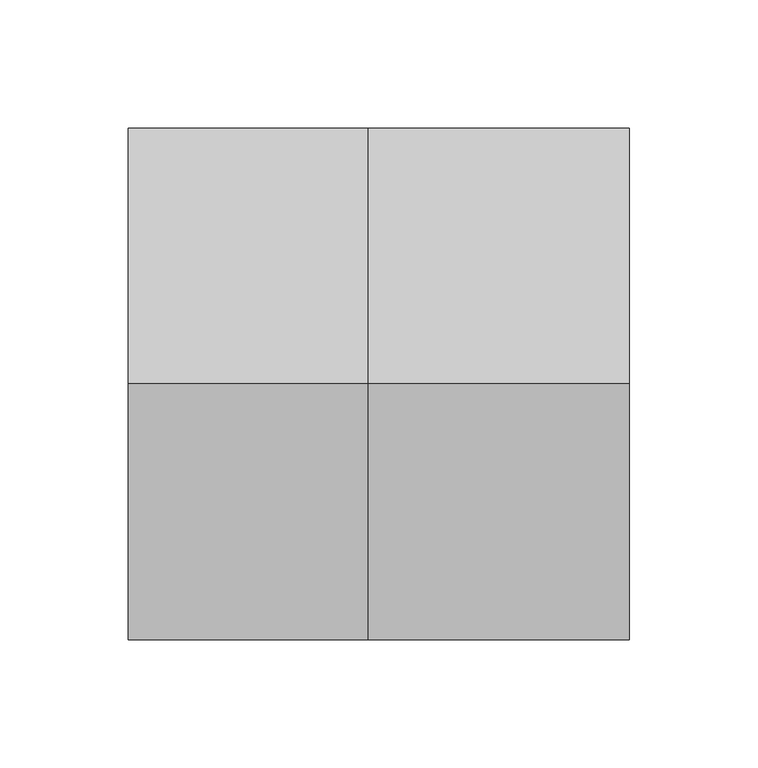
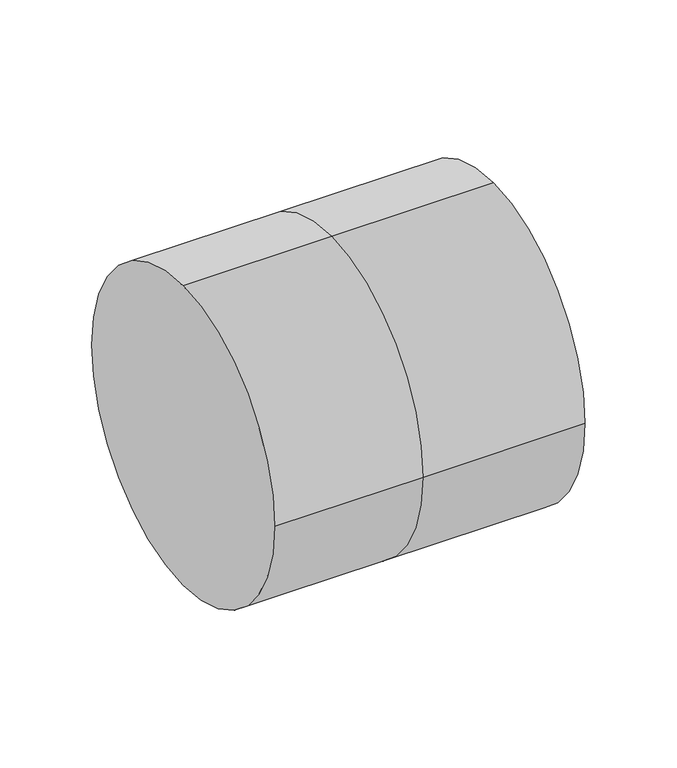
"""IFC4 building model written with IfcOpenShell, lengths in millimetres: duct fitting geometry, M_Encaixe de duto redondo : Padrão."""

from ifc_helpers import new_model, si_unit, frame, origin, place, context, project, spatial, circle_curve, source, transform, mapped, element, save
from ifc_brep_helpers import plane_surface, cylinder_surface, advanced_brep


def duct_fitting_7b39ec1d(model_context):
    return source(origin(), model_context, "Body", "AdvancedBrep", [
        advanced_brep(
        [(101.6, 0.0, 99.5), (101.6, -99.5, 0.0), (101.6, 0.0, -99.5), (101.6, 99.5, 0.0), (0.0, 0.0, 99.5), (0.0, -99.5, 0.0), (0.0, 0.0, -99.5), (0.0, 99.5, 0.0), (-93.404, 0.0, 99.5), (-93.404, 99.5, 0.0), (-93.404, 0.0, -99.5), (-93.404, -99.5, 0.0)],
        [
            (0, 1, circle_curve(frame((101.6, 0.0, 0.0), z_axis=(1.0, 0.0, 0.0), x_axis=(0.0, -1.0, 0.0)), 99.5)),
            (1, 2, circle_curve(frame((101.6, 0.0, 0.0), z_axis=(1.0, 0.0, 0.0), x_axis=(0.0, -1.0, 0.0)), 99.5)),
            (2, 3, circle_curve(frame((101.6, 0.0, 0.0), z_axis=(1.0, 0.0, 0.0), x_axis=(0.0, -1.0, 0.0)), 99.5)),
            (3, 0, circle_curve(frame((101.6, 0.0, 0.0), z_axis=(1.0, 0.0, 0.0), x_axis=(0.0, -1.0, 0.0)), 99.5)),
            (0, 4),
            (4, 5, circle_curve(frame((0.0, 0.0, 0.0), z_axis=(1.0, 0.0, 0.0), x_axis=(0.0, -1.0, 0.0)), 99.5)),
            (5, 1),
            (5, 6, circle_curve(frame((0.0, 0.0, 0.0), z_axis=(1.0, 0.0, 0.0), x_axis=(0.0, -1.0, 0.0)), 99.5)),
            (6, 2),
            (6, 7, circle_curve(frame((0.0, 0.0, 0.0), z_axis=(1.0, 0.0, 0.0), x_axis=(0.0, -1.0, 0.0)), 99.5)),
            (7, 3),
            (7, 4, circle_curve(frame((0.0, 0.0, 0.0), z_axis=(1.0, 0.0, 0.0), x_axis=(0.0, -1.0, 0.0)), 99.5)),
            (8, 9, circle_curve(frame((-93.404, 0.0, 0.0), z_axis=(-1.0, 0.0, 0.0), x_axis=(0.0, -1.0, 0.0)), 99.5)),
            (9, 10, circle_curve(frame((-93.404, 0.0, 0.0), z_axis=(-1.0, 0.0, 0.0), x_axis=(0.0, -1.0, 0.0)), 99.5)),
            (10, 11, circle_curve(frame((-93.404, 0.0, 0.0), z_axis=(-1.0, 0.0, 0.0), x_axis=(0.0, -1.0, 0.0)), 99.5)),
            (11, 8, circle_curve(frame((-93.404, 0.0, 0.0), z_axis=(-1.0, 0.0, 0.0), x_axis=(0.0, -1.0, 0.0)), 99.5)),
            (11, 5),
            (4, 8),
            (10, 6),
            (9, 7),
        ],
        [
            plane_surface(frame((101.6, 0.0, 0.0), z_axis=(1.0, 0.0, 0.0), x_axis=(0.0, 0.0, 1.0))),
            cylinder_surface(frame((0.0, 0.0, 0.0), z_axis=(-1.0, 0.0, 0.0), x_axis=(0.0, -1.0, 0.0)), 99.5),
            plane_surface(frame((-93.404, 0.0, 0.0), z_axis=(-1.0, 0.0, 0.0), x_axis=(0.0, 0.0, 1.0))),
            cylinder_surface(frame((-93.404, 0.0, 0.0), z_axis=(-1.0, 0.0, 0.0), x_axis=(0.0, -1.0, 0.0)), 99.5),
        ],
        [
            (0, [[1, 2, 3, 4]]),
            (1, [[5, 6, 7, -1]]),
            (1, [[-7, 8, 9, -2]]),
            (1, [[-9, 10, 11, -3]]),
            (1, [[-11, 12, -5, -4]]),
            (2, [[13, 14, 15, 16]]),
            (3, [[17, -6, 18, -16]]),
            (3, [[19, -8, -17, -15]]),
            (3, [[20, -10, -19, -14]]),
            (3, [[-18, -12, -20, -13]]),
        ],
    ),
    ])


if __name__ == "__main__":
    model = new_model("IFC4")
    model_context = context("Model", 3, world=origin())
    ifc_project = project(units=[si_unit("LENGTHUNIT", "METRE", prefix="MILLI")], contexts=[model_context])
    site = spatial("IfcSite", under=ifc_project)
    building = spatial("IfcBuilding", under=site)
    placement = place(None, origin())
    duct_fitting_shape = duct_fitting_7b39ec1d(model_context)
    element("IfcDuctFitting", 1, ObjectType="M_Encaixe de duto redondo : Padrão", at=placement, inside=building, context=model_context, shape_type="MappedRepresentation", body=[
        mapped(duct_fitting_shape, transform((0.0, 0.0, 0.0), x_axis=(1.0, 0.0, 0.0), y_axis=(0.0, 1.0, 0.0), z_axis=(0.0, 0.0, 1.0))),
    ])
    save(model, "model.ifc")
